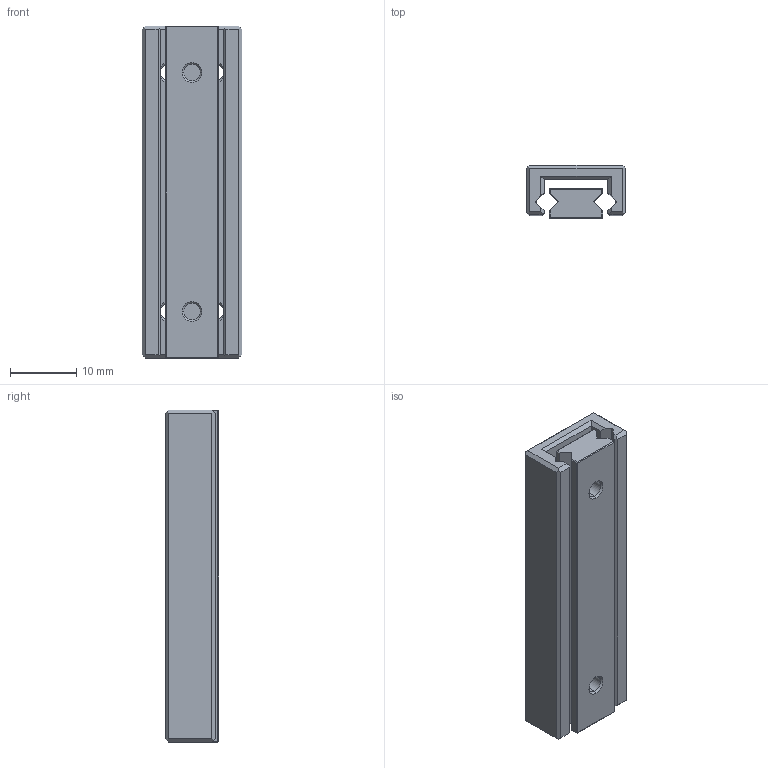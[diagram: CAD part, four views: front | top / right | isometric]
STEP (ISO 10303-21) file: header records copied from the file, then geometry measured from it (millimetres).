
FILE_DESCRIPTION (( 'STEP AP214' ), '1' );
FILE_NAME ('PMM 2-50.STEP', '2012-03-02T11:37:28', ( '' ), ( '' ), 'SwSTEP 2.0', 'SolidWorks 2011', '' );
FILE_SCHEMA (( 'AUTOMOTIVE_DESIGN' ));
Length unit declared in the file: millimetre
Products named in the file (1): PMM 2-50
Bounding box: 15 x 8 x 50 mm (x, y, z)
Volume: 4347.1 mm3; surface area: 4381.3 mm2
Topology: 2 solids, 2 shells, 256 faces, 708 edges, 468 vertices
Faces by surface type: plane 174, bspline 43, cone 24, cylinder 15
Entity records: 12009 total; most frequent: CARTESIAN_POINT 4072, ORIENTED_EDGE 1416, DIRECTION 1120, EDGE_CURVE 708, LINE 544, VECTOR 544, VERTEX_POINT 468, AXIS2_PLACEMENT_3D 288
